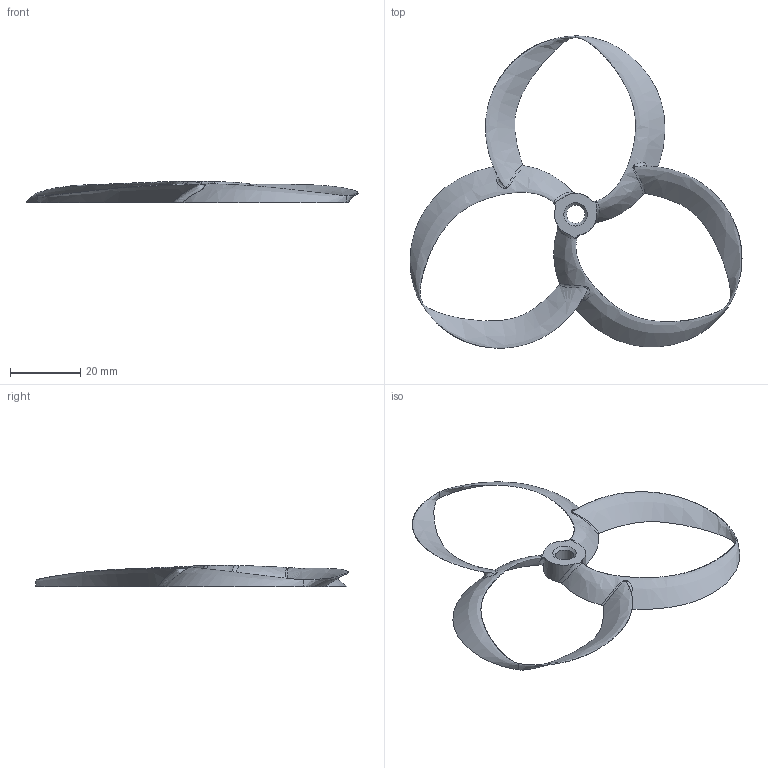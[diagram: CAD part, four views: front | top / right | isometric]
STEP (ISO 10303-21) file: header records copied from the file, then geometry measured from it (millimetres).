
FILE_DESCRIPTION(/* description */ (''),/* implementation_level */ '2;1');
FILE_NAME(/* name */ 'V3 Tri-Loop 4-inch.step',/* time_stamp */ '2023-02-14T12:16:36+07:00',/* author */ (''),/* organization */ (''),/* preprocessor_version */ 'ST-DEVELOPER v19.2',/* originating_system */ 'Autodesk Translation Framework v11.17.0.187',/* authorisation */ '');
FILE_SCHEMA (('AUTOMOTIVE_DESIGN { 1 0 10303 214 3 1 1 }'));
Length unit declared in the file: millimetre
Products named in the file (1): V3 Tri-Loop 4"
Bounding box: 94.49 x 88.9 x 6 mm (x, y, z)
Volume: 2469.8 mm3; surface area: 6025.3 mm2
Topology: 1 solids, 1 shells, 28 faces, 87 edges, 55 vertices
Faces by surface type: bspline 20, cylinder 4, cone 2, plane 2
Full cylindrical faces by diameter (mm): 5.2 x1
Entity records: 5137 total; most frequent: CARTESIAN_POINT 4503, ORIENTED_EDGE 174, EDGE_CURVE 87, B_SPLINE_CURVE_WITH_KNOTS 56, DIRECTION 56, VERTEX_POINT 55, EDGE_LOOP 30, FACE_OUTER_BOUND 28
